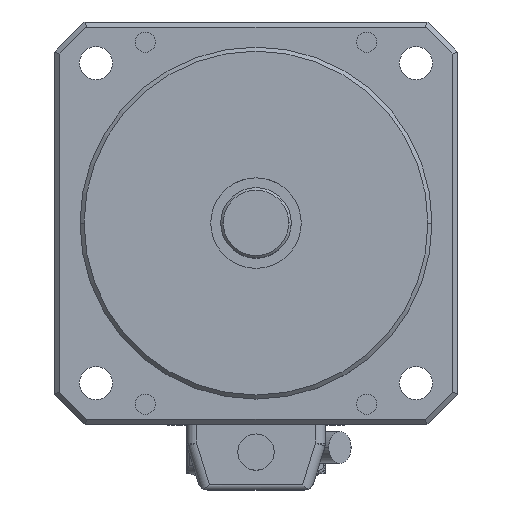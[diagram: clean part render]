
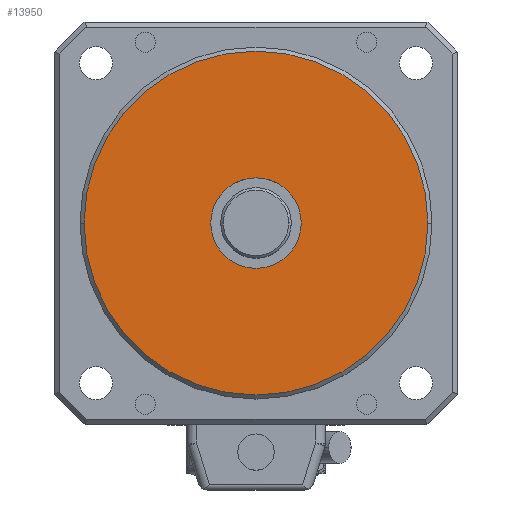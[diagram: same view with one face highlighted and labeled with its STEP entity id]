
A CAD part, top view. The second image highlights one B-rep face of the part: STEP entity #13950.
In plain terms, the highlighted planar face has unit normal (0, 0, 1) as drawn and (0, 0, -1) by its records, which use the part's own axes.
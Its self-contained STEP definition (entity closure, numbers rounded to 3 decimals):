
#8060=CARTESIAN_POINT('',(-9.,0.,31.5));
#8070=VERTEX_POINT('',#8060);
#8100=CARTESIAN_POINT('',(0.,0.,31.5));
#8110=DIRECTION('',(0.,0.,-1.));
#8120=DIRECTION('',(-1.,0.,0.));
#8130=AXIS2_PLACEMENT_3D('',#8100,#8110,#8120);
#8140=CIRCLE('',#8130,9.);
#8150=CARTESIAN_POINT('',(9.,0.,31.5));
#8160=VERTEX_POINT('',#8150);
#8170=EDGE_CURVE('',#8160,#8070,#8140,.T.);
#13700=CARTESIAN_POINT('',(-37.75,0.,31.5));
#13710=DIRECTION('',(0.,0.,-1.));
#13720=DIRECTION('',(-1.,0.,0.));
#13730=AXIS2_PLACEMENT_3D('',#13700,#13710,#13720);
#13740=PLANE('',#13730);
#13750=EDGE_CURVE('',#8070,#8160,#8140,.T.);
#13760=ORIENTED_EDGE('',*,*,#13750,.F.);
#13770=ORIENTED_EDGE('',*,*,#8170,.F.);
#13780=EDGE_LOOP('',(#13770,#13760));
#13790=FACE_BOUND('',#13780,.T.);
#13800=CARTESIAN_POINT('',(0.,0.,31.5));
#13810=DIRECTION('',(0.,0.,-1.));
#13820=DIRECTION('',(-1.,0.,0.));
#13830=AXIS2_PLACEMENT_3D('',#13800,#13810,#13820);
#13840=CIRCLE('',#13830,34.2);
#13850=CARTESIAN_POINT('',(-34.2,0.,31.5));
#13860=VERTEX_POINT('',#13850);
#13870=CARTESIAN_POINT('',(34.2,0.,31.5));
#13880=VERTEX_POINT('',#13870);
#13890=EDGE_CURVE('',#13860,#13880,#13840,.T.);
#13900=ORIENTED_EDGE('',*,*,#13890,.T.);
#13910=EDGE_CURVE('',#13880,#13860,#13840,.T.);
#13920=ORIENTED_EDGE('',*,*,#13910,.T.);
#13930=EDGE_LOOP('',(#13920,#13900));
#13940=FACE_OUTER_BOUND('',#13930,.T.);
#13950=ADVANCED_FACE('',(#13790,#13940),#13740,.T.);
